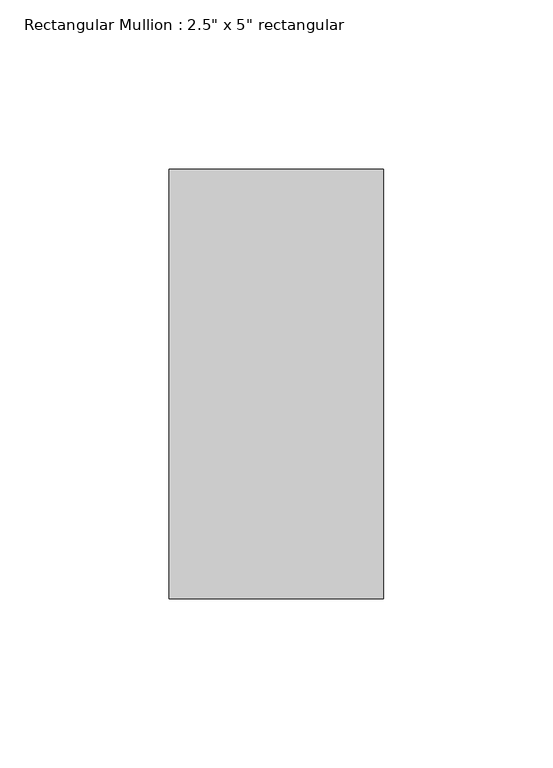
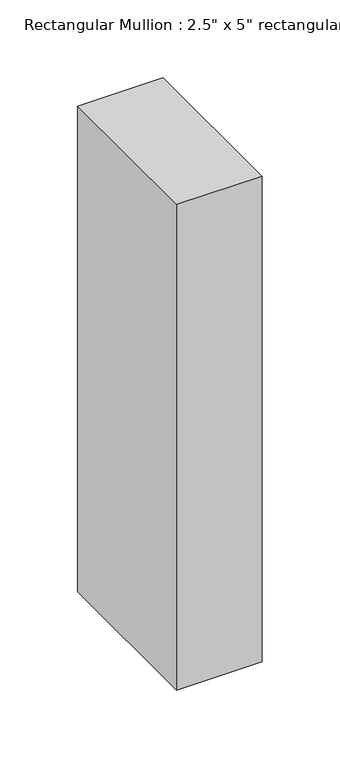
"""IFC4 building model written with IfcOpenShell, lengths in millimetres: member geometry."""

from ifc_helpers import new_model, si_unit, frame, origin, place, context, project, spatial, polyline, outline, extrude, source, transform, mapped, element, save


def member_dfe75557(model_context):
    return source(origin(), model_context, "Body", "SweptSolid", [
        extrude(outline(polyline([(0.0, 63.5), (0.0, -63.5), (-63.5, -63.5), (-63.5, 63.5), (0.0, 63.5)])), frame((0.0, 0.0, -381.0), z_axis=(0.0, 0.0, 1.0), x_axis=(1.0, 0.0, 0.0)), (0.0, 0.0, 1.0), 381.0),
    ])


if __name__ == "__main__":
    model = new_model("IFC4")
    model_context = context("Model", 3, world=origin())
    ifc_project = project(units=[si_unit("LENGTHUNIT", "METRE", prefix="MILLI")], contexts=[model_context])
    site = spatial("IfcSite", under=ifc_project)
    building = spatial("IfcBuilding", under=site)
    placement = place(None, origin())
    member_shape = member_dfe75557(model_context)
    element("IfcMember", 1, ObjectType="Rectangular Mullion : 2.5\" x 5\" rectangular", at=placement, inside=building, context=model_context, shape_type="MappedRepresentation", body=[
        mapped(member_shape, transform((0.0, 0.0, 0.0), x_axis=(1.0, 0.0, 0.0), y_axis=(0.0, 1.0, 0.0), z_axis=(0.0, 0.0, 1.0))),
    ])
    save(model, "model.ifc")
